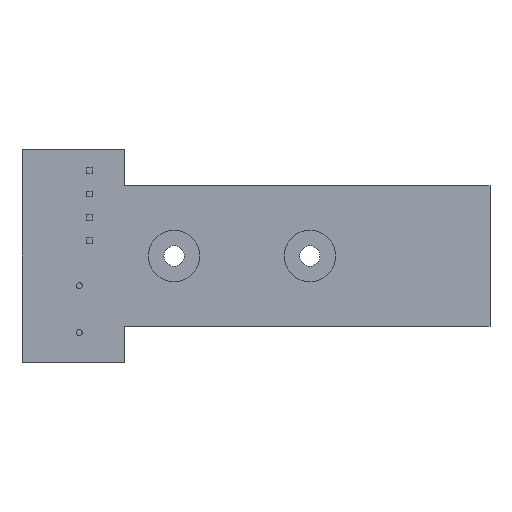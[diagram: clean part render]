
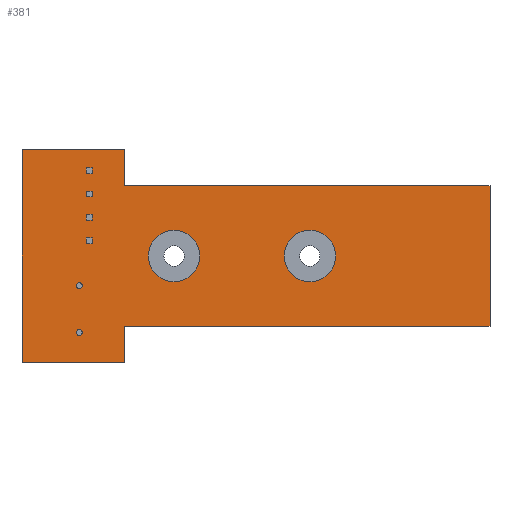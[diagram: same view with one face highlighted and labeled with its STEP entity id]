
A CAD part, front view. The second image highlights one B-rep face of the part: STEP entity #381.
In plain terms, the highlighted planar face has unit normal (0, -1, 0).
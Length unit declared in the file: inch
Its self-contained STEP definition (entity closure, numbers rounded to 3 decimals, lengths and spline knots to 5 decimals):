
#2=DIRECTION('',(0.,0.,1.));
#3=VECTOR('',#2,0.91);
#4=CARTESIAN_POINT('',(0.,0.,0.));
#5=LINE('',#4,#3);
#6=DIRECTION('',(1.,0.,0.));
#7=VECTOR('',#6,0.44);
#8=CARTESIAN_POINT('',(0.,0.,0.91));
#9=LINE('',#8,#7);
#10=DIRECTION('',(0.,0.,-1.));
#11=VECTOR('',#10,0.155);
#12=CARTESIAN_POINT('',(0.44,0.,0.91));
#13=LINE('',#12,#11);
#14=DIRECTION('',(1.,0.,0.));
#15=VECTOR('',#14,1.56);
#16=CARTESIAN_POINT('',(0.44,0.,0.755));
#17=LINE('',#16,#15);
#18=DIRECTION('',(0.,0.,-1.));
#19=VECTOR('',#18,0.6);
#20=CARTESIAN_POINT('',(2.,0.,0.755));
#21=LINE('',#20,#19);
#22=DIRECTION('',(-1.,0.,0.));
#23=VECTOR('',#22,1.56);
#24=CARTESIAN_POINT('',(2.,0.,0.155));
#25=LINE('',#24,#23);
#26=DIRECTION('',(0.,0.,-1.));
#27=VECTOR('',#26,0.155);
#28=CARTESIAN_POINT('',(0.44,0.,0.155));
#29=LINE('',#28,#27);
#30=DIRECTION('',(-1.,0.,0.));
#31=VECTOR('',#30,0.44);
#32=CARTESIAN_POINT('',(0.44,0.,0.));
#33=LINE('',#32,#31);
#34=CARTESIAN_POINT('',(0.65,0.,0.455));
#35=DIRECTION('',(0.,-1.,0.));
#36=DIRECTION('',(1.,0.,0.));
#37=AXIS2_PLACEMENT_3D('',#34,#35,#36);
#39=CARTESIAN_POINT('',(0.65,0.,0.455));
#40=DIRECTION('',(0.,-1.,0.));
#41=DIRECTION('',(-1.,0.,0.));
#42=AXIS2_PLACEMENT_3D('',#39,#40,#41);
#44=CARTESIAN_POINT('',(1.23,0.,0.455));
#45=DIRECTION('',(0.,-1.,0.));
#46=DIRECTION('',(1.,0.,0.));
#47=AXIS2_PLACEMENT_3D('',#44,#45,#46);
#49=CARTESIAN_POINT('',(1.23,0.,0.455));
#50=DIRECTION('',(0.,-1.,0.));
#51=DIRECTION('',(-1.,0.,0.));
#52=AXIS2_PLACEMENT_3D('',#49,#50,#51);
#266=CARTESIAN_POINT('',(0.,0.,0.));
#267=CARTESIAN_POINT('',(0.,0.,0.91));
#268=VERTEX_POINT('',#266);
#269=VERTEX_POINT('',#267);
#270=CARTESIAN_POINT('',(0.44,0.,0.91));
#271=VERTEX_POINT('',#270);
#272=CARTESIAN_POINT('',(0.44,0.,0.755));
#273=VERTEX_POINT('',#272);
#274=CARTESIAN_POINT('',(2.,0.,0.755));
#275=VERTEX_POINT('',#274);
#276=CARTESIAN_POINT('',(2.,0.,0.155));
#277=VERTEX_POINT('',#276);
#278=CARTESIAN_POINT('',(0.44,0.,0.155));
#279=VERTEX_POINT('',#278);
#280=CARTESIAN_POINT('',(0.44,0.,0.));
#281=VERTEX_POINT('',#280);
#330=CARTESIAN_POINT('',(0.76,0.,0.455));
#331=CARTESIAN_POINT('',(0.54,0.,0.455));
#332=VERTEX_POINT('',#330);
#333=VERTEX_POINT('',#331);
#342=CARTESIAN_POINT('',(1.34,0.,0.455));
#343=CARTESIAN_POINT('',(1.12,0.,0.455));
#344=VERTEX_POINT('',#342);
#345=VERTEX_POINT('',#343);
#346=CARTESIAN_POINT('',(0.,0.,0.));
#347=DIRECTION('',(0.,1.,0.));
#348=DIRECTION('',(1.,0.,0.));
#349=AXIS2_PLACEMENT_3D('',#346,#347,#348);
#350=PLANE('',#349);
#352=ORIENTED_EDGE('',*,*,#351,.T.);
#354=ORIENTED_EDGE('',*,*,#353,.T.);
#356=ORIENTED_EDGE('',*,*,#355,.T.);
#358=ORIENTED_EDGE('',*,*,#357,.T.);
#360=ORIENTED_EDGE('',*,*,#359,.T.);
#362=ORIENTED_EDGE('',*,*,#361,.T.);
#364=ORIENTED_EDGE('',*,*,#363,.T.);
#366=ORIENTED_EDGE('',*,*,#365,.T.);
#367=EDGE_LOOP('',(#352,#354,#356,#358,#360,#362,#364,#366));
#368=FACE_OUTER_BOUND('',#367,.F.);
#370=ORIENTED_EDGE('',*,*,#369,.T.);
#372=ORIENTED_EDGE('',*,*,#371,.T.);
#373=EDGE_LOOP('',(#370,#372));
#374=FACE_BOUND('',#373,.F.);
#376=ORIENTED_EDGE('',*,*,#375,.T.);
#378=ORIENTED_EDGE('',*,*,#377,.T.);
#379=EDGE_LOOP('',(#376,#378));
#380=FACE_BOUND('',#379,.F.);
#381=ADVANCED_FACE('',(#368,#374,#380),#350,.F.);
#38=CIRCLE('',#37,0.11);
#43=CIRCLE('',#42,0.11);
#48=CIRCLE('',#47,0.11);
#53=CIRCLE('',#52,0.11);
#351=EDGE_CURVE('',#268,#269,#5,.T.);
#353=EDGE_CURVE('',#269,#271,#9,.T.);
#355=EDGE_CURVE('',#271,#273,#13,.T.);
#357=EDGE_CURVE('',#273,#275,#17,.T.);
#359=EDGE_CURVE('',#275,#277,#21,.T.);
#361=EDGE_CURVE('',#277,#279,#25,.T.);
#363=EDGE_CURVE('',#279,#281,#29,.T.);
#365=EDGE_CURVE('',#281,#268,#33,.T.);
#369=EDGE_CURVE('',#332,#333,#38,.T.);
#371=EDGE_CURVE('',#333,#332,#43,.T.);
#375=EDGE_CURVE('',#344,#345,#48,.T.);
#377=EDGE_CURVE('',#345,#344,#53,.T.);
